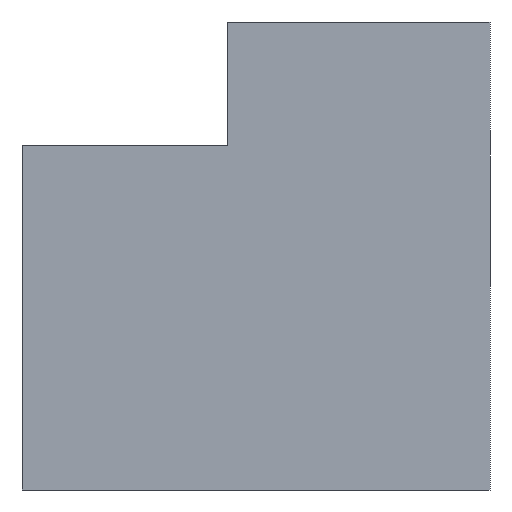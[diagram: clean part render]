
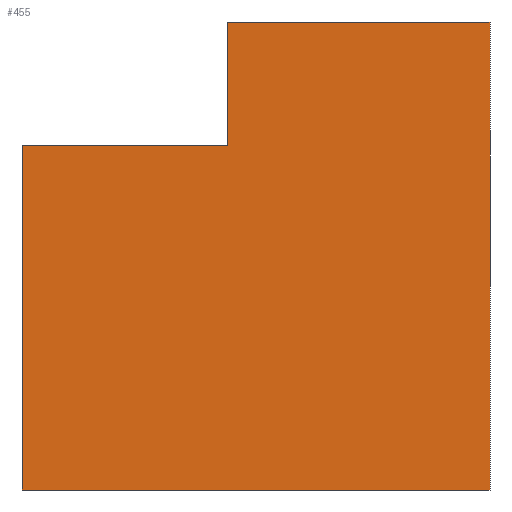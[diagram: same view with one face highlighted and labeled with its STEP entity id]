
A CAD part, front view. The second image highlights one B-rep face of the part: STEP entity #455.
In plain terms, the highlighted planar face has unit normal (0, -1, 0).
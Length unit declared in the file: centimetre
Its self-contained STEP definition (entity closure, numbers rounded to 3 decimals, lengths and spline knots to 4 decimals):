
#27 = DIRECTION ( 'NONE',  ( 0., 0., 1. ) ) ;
#32 = ORIENTED_EDGE ( 'NONE', *, *, #836, .T. ) ;
#38 = CARTESIAN_POINT ( 'NONE',  ( 438.9825, 0., 1000. ) ) ;
#39 = VERTEX_POINT ( 'NONE', #38 ) ;
#69 = VECTOR ( 'NONE', #1055, 100. ) ;
#139 = ORIENTED_EDGE ( 'NONE', *, *, #1008, .F. ) ;
#151 = EDGE_LOOP ( 'NONE', ( #139, #32, #1160, #283, #887, #963 ) ) ;
#213 = AXIS2_PLACEMENT_3D ( 'NONE', #578, #482, #27 ) ;
#264 = VECTOR ( 'NONE', #479, 100. ) ;
#268 = DIRECTION ( 'NONE',  ( 0., 0., 1. ) ) ;
#271 = CARTESIAN_POINT ( 'NONE',  ( 0., 0., 1000. ) ) ;
#283 = ORIENTED_EDGE ( 'NONE', *, *, #476, .T. ) ;
#285 = CARTESIAN_POINT ( 'NONE',  ( 1000., 0., 0. ) ) ;
#325 = LINE ( 'NONE', #865, #69 ) ;
#335 = VERTEX_POINT ( 'NONE', #285 ) ;
#343 = VERTEX_POINT ( 'NONE', #591 ) ;
#433 = VERTEX_POINT ( 'NONE', #675 ) ;
#442 = EDGE_CURVE ( 'NONE', #888, #335, #965, .T. ) ;
#455 = ADVANCED_FACE ( 'NONE', ( #789 ), #1154, .F. ) ;
#476 = EDGE_CURVE ( 'NONE', #433, #335, #671, .T. ) ;
#479 = DIRECTION ( 'NONE',  ( 1., 0., 0. ) ) ;
#482 = DIRECTION ( 'NONE',  ( 0., 1., 0. ) ) ;
#486 = EDGE_CURVE ( 'NONE', #39, #888, #325, .T. ) ;
#503 = CARTESIAN_POINT ( 'NONE',  ( 1000., 0., 1000. ) ) ;
#537 = LINE ( 'NONE', #640, #1183 ) ;
#561 = LINE ( 'NONE', #921, #1122 ) ;
#578 = CARTESIAN_POINT ( 'NONE',  ( 0., 0., 1000. ) ) ;
#591 = CARTESIAN_POINT ( 'NONE',  ( 438.9825, 0., 737.1737 ) ) ;
#640 = CARTESIAN_POINT ( 'NONE',  ( 438.9825, 0., 737.1737 ) ) ;
#648 = LINE ( 'NONE', #271, #996 ) ;
#665 = EDGE_CURVE ( 'NONE', #1102, #433, #648, .T. ) ;
#671 = LINE ( 'NONE', #1040, #264 ) ;
#675 = CARTESIAN_POINT ( 'NONE',  ( 0., 0., 0. ) ) ;
#751 = DIRECTION ( 'NONE',  ( -1., 0., 0. ) ) ;
#789 = FACE_OUTER_BOUND ( 'NONE', #151, .T. ) ;
#836 = EDGE_CURVE ( 'NONE', #343, #1102, #561, .T. ) ;
#865 = CARTESIAN_POINT ( 'NONE',  ( 0., 0., 1000. ) ) ;
#877 = DIRECTION ( 'NONE',  ( 0., 0., -1. ) ) ;
#887 = ORIENTED_EDGE ( 'NONE', *, *, #442, .F. ) ;
#888 = VERTEX_POINT ( 'NONE', #891 ) ;
#891 = CARTESIAN_POINT ( 'NONE',  ( 1000., 0., 1000. ) ) ;
#921 = CARTESIAN_POINT ( 'NONE',  ( 438.9825, 0., 737.1737 ) ) ;
#949 = VECTOR ( 'NONE', #877, 100. ) ;
#963 = ORIENTED_EDGE ( 'NONE', *, *, #486, .F. ) ;
#965 = LINE ( 'NONE', #503, #949 ) ;
#996 = VECTOR ( 'NONE', #1103, 100. ) ;
#1008 = EDGE_CURVE ( 'NONE', #343, #39, #537, .T. ) ;
#1040 = CARTESIAN_POINT ( 'NONE',  ( 0., 0., 0. ) ) ;
#1055 = DIRECTION ( 'NONE',  ( 1., 0., 0. ) ) ;
#1102 = VERTEX_POINT ( 'NONE', #1105 ) ;
#1103 = DIRECTION ( 'NONE',  ( 0., 0., -1. ) ) ;
#1105 = CARTESIAN_POINT ( 'NONE',  ( 0., 0., 737.1737 ) ) ;
#1122 = VECTOR ( 'NONE', #751, 100. ) ;
#1154 = PLANE ( 'NONE',  #213 ) ;
#1160 = ORIENTED_EDGE ( 'NONE', *, *, #665, .T. ) ;
#1183 = VECTOR ( 'NONE', #268, 100. ) ;
